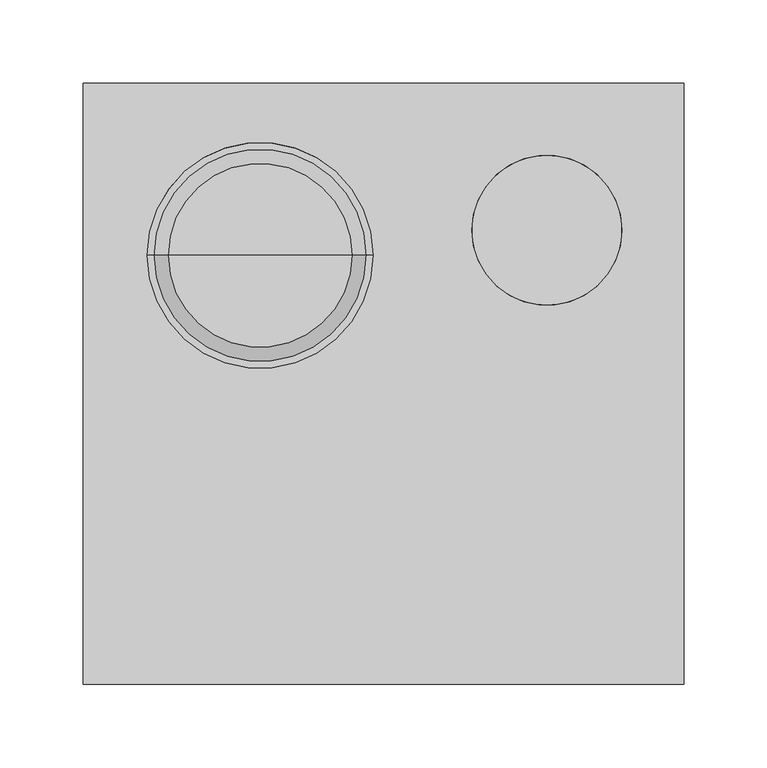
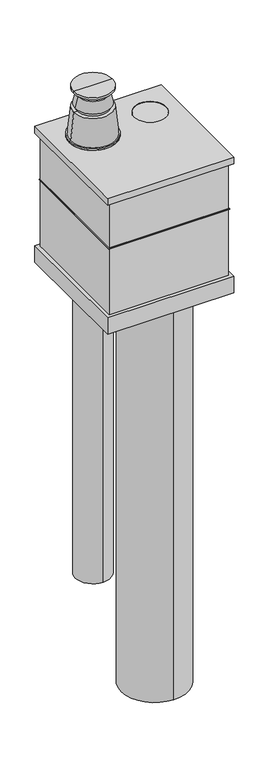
"""IFC4 building model written with IfcOpenShell, lengths in millimetres: proxy geometry, DERS_420_AM_AEB_Mini-Delta_M&G : SPIEGEL PP 60/100 XL (MIRROR)."""

from ifc_helpers import new_model, si_unit, point, frame, frame_2d, origin, place, context, project, spatial, polyline, circle_curve, trimmed, segment, composite_curve, outline, extrude, faceted_brep, source, transform, mapped, element, save
from ifc_brep_helpers import plane_surface, cylinder_surface, revolved_surface, advanced_brep


def generic_models_4ee27f0b(model_context):
    return source(origin(), model_context, "Body", "SolidModel", [
        advanced_brep(
        [(13.5, 77.0, 568.2650457), (-161.5, 77.0, 568.2650457), (-74.0, 77.0, 568.2650457), (-6.3843383, 77.0, 677.2650457), (-141.6156617, 77.0, 677.2650457), (-6.3843383, 77.0, 682.2650457), (-141.6156617, 77.0, 682.2650457), (-10.3450748, 77.0, 682.2650457), (-137.6549252, 77.0, 682.2650457), (-19.0, 77.0, 764.611158), (-129.0, 77.0, 764.611158), (-29.0, 77.0, 764.611158), (-119.0, 77.0, 764.611158), (-29.0, 77.0, 774.611158), (-119.0, 77.0, 774.611158), (-23.961256, 77.0, 774.611158), (-124.038744, 77.0, 774.611158), (-31.5, 77.0, 807.2650457), (-116.5, 77.0, 807.2650457), (-64.0, 77.0, 807.2650457), (-84.0, 77.0, 807.2650457), (-64.0, 77.0, 809.2457936), (-84.0, 77.0, 809.2457936), (-19.0, 77.0, 821.3035072), (-129.0, 77.0, 821.3035072), (-19.0, 77.0, 827.2650457), (-129.0, 77.0, 827.2650457), (-74.0, 77.0, 827.2650457)],
        [
            (0, 1, circle_curve(frame((-74.0, 77.0, 568.2650457), z_axis=(0.0, 0.0, -1.0), x_axis=(-1.0, 0.0, 0.0)), 87.5)),
            (1, 2),
            (2, 0),
            (1, 0, circle_curve(frame((-74.0, 77.0, 568.2650457), z_axis=(0.0, 0.0, -1.0), x_axis=(-1.0, 0.0, 0.0)), 87.5)),
            (3, 4, circle_curve(frame((-74.0, 77.0, 677.2650457), z_axis=(0.0, 0.0, -1.0), x_axis=(-1.0, 0.0, 0.0)), 67.6156617)),
            (4, 1),
            (0, 3),
            (4, 3, circle_curve(frame((-74.0, 77.0, 677.2650457), z_axis=(0.0, 0.0, -1.0), x_axis=(-1.0, 0.0, 0.0)), 67.6156617)),
            (5, 6, circle_curve(frame((-74.0, 77.0, 682.2650457), z_axis=(0.0, 0.0, -1.0), x_axis=(-1.0, 0.0, 0.0)), 67.6156617)),
            (6, 4),
            (3, 5),
            (6, 5, circle_curve(frame((-74.0, 77.0, 682.2650457), z_axis=(0.0, 0.0, -1.0), x_axis=(-1.0, 0.0, 0.0)), 67.6156617)),
            (7, 8, circle_curve(frame((-74.0, 77.0, 682.2650457), z_axis=(0.0, 0.0, -1.0), x_axis=(-1.0, 0.0, 0.0)), 63.6549252)),
            (8, 6),
            (5, 7),
            (8, 7, circle_curve(frame((-74.0, 77.0, 682.2650457), z_axis=(0.0, 0.0, -1.0), x_axis=(-1.0, 0.0, 0.0)), 63.6549252)),
            (9, 10, circle_curve(frame((-74.0, 77.0, 764.611158), z_axis=(0.0, 0.0, -1.0), x_axis=(-1.0, 0.0, 0.0)), 55.0)),
            (10, 8),
            (7, 9),
            (10, 9, circle_curve(frame((-74.0, 77.0, 764.611158), z_axis=(0.0, 0.0, -1.0), x_axis=(-1.0, 0.0, 0.0)), 55.0)),
            (11, 12, circle_curve(frame((-74.0, 77.0, 764.611158), z_axis=(0.0, 0.0, -1.0), x_axis=(-1.0, 0.0, 0.0)), 45.0)),
            (12, 10),
            (9, 11),
            (12, 11, circle_curve(frame((-74.0, 77.0, 764.611158), z_axis=(0.0, 0.0, -1.0), x_axis=(-1.0, 0.0, 0.0)), 45.0)),
            (13, 14, circle_curve(frame((-74.0, 77.0, 774.611158), z_axis=(0.0, 0.0, -1.0), x_axis=(-1.0, 0.0, 0.0)), 45.0)),
            (14, 12),
            (11, 13),
            (14, 13, circle_curve(frame((-74.0, 77.0, 774.611158), z_axis=(0.0, 0.0, -1.0), x_axis=(-1.0, 0.0, 0.0)), 45.0)),
            (15, 16, circle_curve(frame((-74.0, 77.0, 774.611158), z_axis=(0.0, 0.0, -1.0), x_axis=(-1.0, 0.0, 0.0)), 50.038744)),
            (16, 14),
            (13, 15),
            (16, 15, circle_curve(frame((-74.0, 77.0, 774.611158), z_axis=(0.0, 0.0, -1.0), x_axis=(-1.0, 0.0, 0.0)), 50.038744)),
            (17, 18, circle_curve(frame((-74.0, 77.0, 807.2650457), z_axis=(0.0, 0.0, -1.0), x_axis=(-1.0, 0.0, 0.0)), 42.5)),
            (18, 16),
            (15, 17),
            (18, 17, circle_curve(frame((-74.0, 77.0, 807.2650457), z_axis=(0.0, 0.0, -1.0), x_axis=(-1.0, 0.0, 0.0)), 42.5)),
            (19, 20, circle_curve(frame((-74.0, 77.0, 807.2650457), z_axis=(0.0, 0.0, -1.0), x_axis=(-1.0, 0.0, 0.0)), 10.0)),
            (20, 18),
            (17, 19),
            (20, 19, circle_curve(frame((-74.0, 77.0, 807.2650457), z_axis=(0.0, 0.0, -1.0), x_axis=(-1.0, 0.0, 0.0)), 10.0)),
            (21, 22, circle_curve(frame((-74.0, 77.0, 809.2457936), z_axis=(0.0, 0.0, -1.0), x_axis=(-1.0, 0.0, 0.0)), 10.0)),
            (22, 20),
            (19, 21),
            (22, 21, circle_curve(frame((-74.0, 77.0, 809.2457936), z_axis=(0.0, 0.0, -1.0), x_axis=(-1.0, 0.0, 0.0)), 10.0)),
            (23, 24, circle_curve(frame((-74.0, 77.0, 821.3035072), z_axis=(0.0, 0.0, -1.0), x_axis=(-1.0, 0.0, 0.0)), 55.0)),
            (24, 22),
            (21, 23),
            (24, 23, circle_curve(frame((-74.0, 77.0, 821.3035072), z_axis=(0.0, 0.0, -1.0), x_axis=(-1.0, 0.0, 0.0)), 55.0)),
            (25, 26, circle_curve(frame((-74.0, 77.0, 827.2650457), z_axis=(0.0, 0.0, -1.0), x_axis=(-1.0, 0.0, 0.0)), 55.0)),
            (26, 24),
            (23, 25),
            (26, 25, circle_curve(frame((-74.0, 77.0, 827.2650457), z_axis=(0.0, 0.0, -1.0), x_axis=(-1.0, 0.0, 0.0)), 55.0)),
            (27, 26),
            (25, 27),
        ],
        [
            plane_surface(frame((-74.0, 77.0, 568.2650457), z_axis=(0.0, 0.0, -1.0), x_axis=(-1.0, 0.0, 0.0))),
            revolved_surface(polyline([(-161.5, 77.0, 568.2650457), (-141.6156617, 77.0, 677.2650457)]), (-74.0, 77.0, -231.4661326), (0.0, 0.0, 1.0)),
            cylinder_surface(frame((-74.0, 77.0, -231.4661326), z_axis=(0.0, 0.0, 1.0), x_axis=(-1.0, 0.0, 0.0)), 67.6156617),
            plane_surface(frame((-74.0, 77.0, 682.2650457), z_axis=(0.0, 0.0, 1.0), x_axis=(-1.0, 0.0, 0.0))),
            revolved_surface(polyline([(-137.6549252, 77.0, 682.2650457), (-129.0, 77.0, 764.611158)]), (-74.0, 77.0, -231.4661326), (0.0, 0.0, 1.0)),
            plane_surface(frame((-74.0, 77.0, 764.611158), z_axis=(0.0, 0.0, 1.0), x_axis=(-1.0, 0.0, 0.0))),
            cylinder_surface(frame((-74.0, 77.0, -231.4661326), z_axis=(0.0, 0.0, 1.0), x_axis=(-1.0, 0.0, 0.0)), 45.0),
            plane_surface(frame((-74.0, 77.0, 774.611158), z_axis=(0.0, 0.0, -1.0), x_axis=(-1.0, 0.0, 0.0))),
            revolved_surface(polyline([(-124.038744, 77.0, 774.611158), (-116.5, 77.0, 807.2650457)]), (-74.0, 77.0, -231.4661326), (0.0, 0.0, 1.0)),
            plane_surface(frame((-74.0, 77.0, 807.2650457), z_axis=(0.0, 0.0, 1.0), x_axis=(-1.0, 0.0, 0.0))),
            cylinder_surface(frame((-74.0, 77.0, -231.4661326), z_axis=(0.0, 0.0, 1.0), x_axis=(-1.0, 0.0, 0.0)), 10.0),
            revolved_surface(polyline([(-84.0, 77.0, 809.2457936), (-129.0, 77.0, 821.3035072)]), (-74.0, 77.0, -231.4661326), (0.0, 0.0, 1.0)),
            cylinder_surface(frame((-74.0, 77.0, -231.4661326), z_axis=(0.0, 0.0, 1.0), x_axis=(-1.0, 0.0, 0.0)), 55.0),
            plane_surface(frame((-74.0, 77.0, 827.2650457), z_axis=(0.0, 0.0, 1.0), x_axis=(-1.0, 0.0, 0.0))),
        ],
        [
            (0, [[1, 2, 3]]),
            (0, [[4, -3, -2]]),
            (1, [[5, 6, -1, 7]]),
            (1, [[8, -7, -4, -6]]),
            (2, [[9, 10, -5, 11]]),
            (2, [[12, -11, -8, -10]]),
            (3, [[13, 14, -9, 15]]),
            (3, [[16, -15, -12, -14]]),
            (4, [[17, 18, -13, 19]]),
            (4, [[20, -19, -16, -18]]),
            (5, [[21, 22, -17, 23]]),
            (5, [[24, -23, -20, -22]]),
            (6, [[25, 26, -21, 27]]),
            (6, [[28, -27, -24, -26]]),
            (7, [[29, 30, -25, 31]]),
            (7, [[32, -31, -28, -30]]),
            (8, [[33, 34, -29, 35]]),
            (8, [[36, -35, -32, -34]]),
            (9, [[37, 38, -33, 39]]),
            (9, [[40, -39, -36, -38]]),
            (10, [[41, 42, -37, 43]]),
            (10, [[44, -43, -40, -42]]),
            (11, [[45, 46, -41, 47]]),
            (11, [[48, -47, -44, -46]]),
            (12, [[49, 50, -45, 51]]),
            (12, [[52, -51, -48, -50]]),
            (13, [[53, -49, 54]]),
            (13, [[-54, -52, -53]]),
        ],
    ),
        extrude(outline(polyline([(172.5, 172.5), (172.5, -172.5), (-172.5, -172.5), (-172.5, 172.5), (172.5, 172.5)])), frame((0.0, 0.0, 518.2650457), z_axis=(0.0, 0.0, 1.0), x_axis=(1.0, 0.0, 0.0)), (0.0, 0.0, 1.0), 1.3),
        extrude(outline(composite_curve([segment(trimmed(circle_curve(frame_2d((98.0, 92.0)), 45.0), [point((98.0, 47.0))], [point((98.0, 137.0))], False, "CARTESIAN"), True, "CONTINUOUS"), segment(trimmed(circle_curve(frame_2d((98.0, 92.0)), 45.0), [point((98.0, 137.0))], [point((98.0, 47.0))], False, "CARTESIAN"), True, "CONTINUOUS")], self_intersect=False)), frame((0.0, 0.0, -807.7349543), z_axis=(0.0, 0.0, 1.0), x_axis=(1.0, 0.0, 0.0)), (0.0, 0.0, 1.0), 1483.7),
        extrude(outline(composite_curve([segment(trimmed(circle_curve(frame_2d((-74.0, 77.0)), 50.0), [point((-74.0, 27.0))], [point((-74.0, 127.0))], False, "CARTESIAN"), True, "CONTINUOUS"), segment(trimmed(circle_curve(frame_2d((-74.0, 77.0)), 50.0), [point((-74.0, 127.0))], [point((-74.0, 27.0))], False, "CARTESIAN"), True, "CONTINUOUS")], self_intersect=False)), frame((0.0, 0.0, -641.7349543), z_axis=(0.0, 0.0, 1.0), x_axis=(1.0, 0.0, 0.0)), (0.0, 0.0, 1.0), 1299.0),
        extrude(outline(composite_curve([segment(trimmed(circle_curve(frame_2d((33.0, -42.0)), 95.0), [point((33.0, -137.0))], [point((33.0, 53.0))], False, "CARTESIAN"), True, "CONTINUOUS"), segment(trimmed(circle_curve(frame_2d((33.0, -42.0)), 95.0), [point((33.0, 53.0))], [point((33.0, -137.0))], False, "CARTESIAN"), True, "CONTINUOUS")], self_intersect=False)), frame((0.0, 0.0, -933.7349543), z_axis=(0.0, 0.0, 1.0), x_axis=(1.0, 0.0, 0.0)), (0.0, 0.0, 1.0), 1350.0),
        advanced_brep(
        [(180.0, 180.0, 677.2650457), (-180.0, 180.0, 677.2650457), (-180.0, -180.0, 677.2650457), (180.0, -180.0, 677.2650457), (53.0, 92.0, 677.2650457), (143.0, 92.0, 677.2650457), (180.0, 180.0, 657.2650457), (180.0, -180.0, 657.2650457), (-180.0, -180.0, 657.2650457), (-180.0, 180.0, 657.2650457), (178.7, 178.7, 657.2650457), (-178.7, 178.7, 657.2650457), (-178.7, -178.7, 657.2650457), (178.7, -178.7, 657.2650457), (170.0, 170.0, 657.2650457), (170.0, -170.0, 657.2650457), (-170.0, -170.0, 657.2650457), (-170.0, 170.0, 657.2650457), (168.7, -168.7, 657.2650457), (168.7, 168.7, 657.2650457), (-168.7, 168.7, 657.2650457), (-168.7, -168.7, 657.2650457), (178.7, 178.7, 675.9650457), (178.7, -178.7, 675.9650457), (-178.7, -178.7, 675.9650457), (-178.7, 178.7, 675.9650457), (170.0, 170.0, 675.9650457), (-170.0, 170.0, 675.9650457), (-170.0, -170.0, 675.9650457), (170.0, -170.0, 675.9650457), (168.7, -168.7, 675.9650457), (-168.7, -168.7, 675.9650457), (-168.7, 168.7, 675.9650457), (168.7, 168.7, 675.9650457), (143.0, 92.0, 675.9650457), (53.0, 92.0, 675.9650457)],
        [
            (0, 1),
            (1, 2),
            (2, 3),
            (3, 0),
            (4, 5, circle_curve(frame((98.0, 92.0, 677.2650457), z_axis=(0.0, 0.0, -1.0), x_axis=(1.0, 0.0, 0.0)), 45.0)),
            (5, 4, circle_curve(frame((98.0, 92.0, 677.2650457), z_axis=(0.0, 0.0, -1.0), x_axis=(1.0, 0.0, 0.0)), 45.0)),
            (6, 7),
            (7, 8),
            (8, 9),
            (9, 6),
            (10, 11),
            (11, 12),
            (12, 13),
            (13, 10),
            (14, 15),
            (15, 16),
            (16, 17),
            (17, 14),
            (18, 19),
            (19, 20),
            (20, 21),
            (21, 18),
            (0, 6),
            (9, 1),
            (8, 2),
            (7, 3),
            (22, 23),
            (23, 24),
            (24, 25),
            (25, 22),
            (26, 27),
            (27, 28),
            (28, 29),
            (29, 26),
            (30, 31),
            (31, 32),
            (32, 33),
            (33, 30),
            (34, 35, circle_curve(frame((98.0, 92.0, 675.9650457), z_axis=(0.0, 0.0, 1.0), x_axis=(1.0, 0.0, 0.0)), 45.0)),
            (35, 34, circle_curve(frame((98.0, 92.0, 675.9650457), z_axis=(0.0, 0.0, 1.0), x_axis=(1.0, 0.0, 0.0)), 45.0)),
            (25, 11),
            (10, 22),
            (24, 12),
            (23, 13),
            (29, 15),
            (14, 26),
            (28, 16),
            (27, 17),
            (33, 19),
            (18, 30),
            (32, 20),
            (31, 21),
            (4, 35),
            (34, 5),
        ],
        [
            plane_surface(frame((-180.0, 180.0, 677.2650457), z_axis=(0.0, 0.0, 1.0), x_axis=(-1.0, 0.0, 0.0))),
            plane_surface(frame((-180.0, 180.0, 657.2650457), z_axis=(0.0, 0.0, -1.0), x_axis=(1.0, 0.0, 0.0))),
            plane_surface(frame((180.0, 180.0, 677.2650457), z_axis=(0.0, 1.0, 0.0), x_axis=(0.0, 0.0, -1.0))),
            plane_surface(frame((-180.0, 180.0, 677.2650457), z_axis=(-1.0, 0.0, 0.0), x_axis=(0.0, 0.0, -1.0))),
            plane_surface(frame((-180.0, -180.0, 677.2650457), z_axis=(0.0, -1.0, 0.0), x_axis=(0.0, 0.0, -1.0))),
            plane_surface(frame((180.0, -180.0, 677.2650457), z_axis=(1.0, 0.0, 0.0), x_axis=(0.0, 0.0, -1.0))),
            plane_surface(frame((-170.0, 178.7, 675.9650457), z_axis=(0.0, 0.0, -1.0), x_axis=(-1.0, 0.0, 0.0))),
            plane_surface(frame((178.7, 178.7, 675.9650457), z_axis=(0.0, -1.0, 0.0), x_axis=(0.0, 0.0, -1.0))),
            plane_surface(frame((-178.7, 178.7, 675.9650457), z_axis=(1.0, 0.0, 0.0), x_axis=(0.0, 0.0, -1.0))),
            plane_surface(frame((-178.7, -178.7, 675.9650457), z_axis=(0.0, 1.0, 0.0), x_axis=(0.0, 0.0, -1.0))),
            plane_surface(frame((178.7, -178.7, 675.9650457), z_axis=(-1.0, 0.0, 0.0), x_axis=(0.0, 0.0, -1.0))),
            plane_surface(frame((170.0, 170.0, 675.9650457), z_axis=(1.0, 0.0, 0.0), x_axis=(0.0, 0.0, -1.0))),
            plane_surface(frame((170.0, -170.0, 675.9650457), z_axis=(0.0, -1.0, 0.0), x_axis=(0.0, 0.0, -1.0))),
            plane_surface(frame((-170.0, -170.0, 675.9650457), z_axis=(-1.0, 0.0, 0.0), x_axis=(0.0, 0.0, -1.0))),
            plane_surface(frame((-170.0, 170.0, 675.9650457), z_axis=(0.0, 1.0, 0.0), x_axis=(0.0, 0.0, -1.0))),
            plane_surface(frame((168.7, -168.7, 675.9650457), z_axis=(-1.0, 0.0, 0.0), x_axis=(0.0, 0.0, -1.0))),
            plane_surface(frame((168.7, 168.7, 675.9650457), z_axis=(0.0, -1.0, 0.0), x_axis=(0.0, 0.0, -1.0))),
            plane_surface(frame((-168.7, 168.7, 675.9650457), z_axis=(1.0, 0.0, 0.0), x_axis=(0.0, 0.0, -1.0))),
            plane_surface(frame((-168.7, -168.7, 675.9650457), z_axis=(0.0, 1.0, 0.0), x_axis=(0.0, 0.0, -1.0))),
            revolved_surface(polyline([(143.0, 92.0, 675.9650457), (143.0, 92.0, 677.2650457)]), (98.0, 92.0, 657.2650457), (0.0, 0.0, -1.0)),
        ],
        [
            (0, [[1, 2, 3, 4], [5, 6]]),
            (1, [[7, 8, 9, 10], [11, 12, 13, 14]]),
            (1, [[15, 16, 17, 18], [19, 20, 21, 22]]),
            (2, [[-1, 23, -10, 24]]),
            (3, [[-2, -24, -9, 25]]),
            (4, [[-3, -25, -8, 26]]),
            (5, [[-4, -26, -7, -23]]),
            (6, [[27, 28, 29, 30], [31, 32, 33, 34]]),
            (6, [[35, 36, 37, 38], [39, 40]]),
            (7, [[-30, 41, -11, 42]]),
            (8, [[-29, 43, -12, -41]]),
            (9, [[-28, 44, -13, -43]]),
            (10, [[-27, -42, -14, -44]]),
            (11, [[-34, 45, -15, 46]]),
            (12, [[-33, 47, -16, -45]]),
            (13, [[-32, 48, -17, -47]]),
            (14, [[-31, -46, -18, -48]]),
            (15, [[-38, 49, -19, 50]]),
            (16, [[-37, 51, -20, -49]]),
            (17, [[-36, 52, -21, -51]]),
            (18, [[-35, -50, -22, -52]]),
            (19, [[53, -39, 54, -5]]),
            (19, [[-53, -6, -54, -40]]),
        ],
    ),
        faceted_brep([(170.0, 170.0, 675.9650457), (-170.0, 170.0, 675.9650457), (-170.0, -170.0, 675.9650457), (170.0, -170.0, 675.9650457), (168.7, 168.7, 675.9650457), (168.7, -168.7, 675.9650457), (-168.7, -168.7, 675.9650457), (-168.7, 168.7, 675.9650457), (170.0, 170.0, 318.2650457), (170.0, -170.0, 318.2650457), (-170.0, -170.0, 318.2650457), (-170.0, 170.0, 318.2650457), (168.7, 168.7, 318.2650457), (-168.7, 168.7, 318.2650457), (-168.7, -168.7, 318.2650457), (168.7, -168.7, 318.2650457), (170.0, 170.0, 657.2650457), (-170.0, 170.0, 657.2650457), (-170.0, -170.0, 657.2650457), (170.0, -170.0, 657.2650457), (168.7, 168.7, 657.2650457), (168.7, -168.7, 657.2650457), (-168.7, -168.7, 657.2650457), (-168.7, 168.7, 657.2650457)], [[[0, 1, 2, 3], [4, 5, 6, 7]], [[8, 9, 10, 11], [12, 13, 14, 15]], [[1, 0, 16, 8, 11, 17]], [[2, 1, 17, 11, 10, 18]], [[3, 2, 18, 10, 9, 19]], [[0, 3, 19, 9, 8, 16]], [[5, 4, 20, 12, 15, 21]], [[6, 5, 21, 15, 14, 22]], [[7, 6, 22, 14, 13, 23]], [[4, 7, 23, 13, 12, 20]]]),
        faceted_brep([(180.0, 180.0, 268.2650457), (180.0, -180.0, 268.2650457), (-180.0, -180.0, 268.2650457), (-180.0, 180.0, 268.2650457), (178.7, 178.7, 268.2650457), (-178.7, 178.7, 268.2650457), (-178.7, -178.7, 268.2650457), (178.7, -178.7, 268.2650457), (180.0, 180.0, 318.2650457), (-180.0, 180.0, 318.2650457), (-180.0, -180.0, 318.2650457), (180.0, -180.0, 318.2650457), (178.7, 178.7, 316.9650457), (178.7, -178.7, 316.9650457), (-178.7, -178.7, 316.9650457), (-178.7, 178.7, 316.9650457)], [[[0, 1, 2, 3], [4, 5, 6, 7]], [[8, 9, 10, 11]], [[0, 3, 9, 8]], [[3, 2, 10, 9]], [[2, 1, 11, 10]], [[1, 0, 8, 11]], [[12, 13, 14, 15]], [[12, 15, 5, 4]], [[15, 14, 6, 5]], [[14, 13, 7, 6]], [[13, 12, 4, 7]]]),
    ])


if __name__ == "__main__":
    model = new_model("IFC4")
    model_context = context("Model", 3, world=origin())
    ifc_project = project(units=[si_unit("LENGTHUNIT", "METRE", prefix="MILLI")], contexts=[model_context])
    site = spatial("IfcSite", under=ifc_project)
    building = spatial("IfcBuilding", under=site)
    placement = place(None, origin())
    generic_models_shape = generic_models_4ee27f0b(model_context)
    element("IfcBuildingElementProxy", 1, Name="DERS_420_AM_AEB_Mini-Delta_M&G : SPIEGEL PP 60/100 XL (MIRROR)", ObjectType="DERS_420_AM_AEB_Mini-Delta_M&G : SPIEGEL PP 60/100 XL (MIRROR)", at=placement, inside=building, context=model_context, shape_type="MappedRepresentation", body=[
        mapped(generic_models_shape, transform((0.0, 0.0, 0.0), x_axis=(1.0, 0.0, 0.0), y_axis=(0.0, 1.0, 0.0), z_axis=(0.0, 0.0, 1.0))),
    ])
    save(model, "model.ifc")
